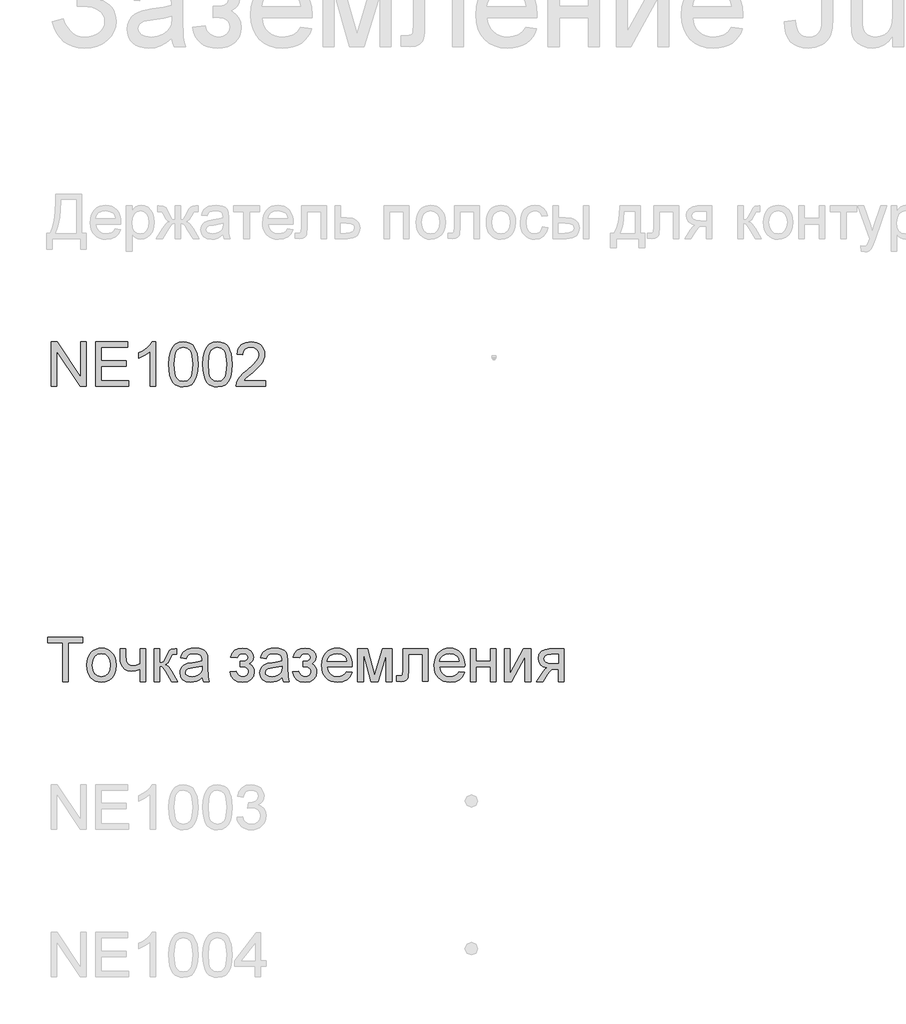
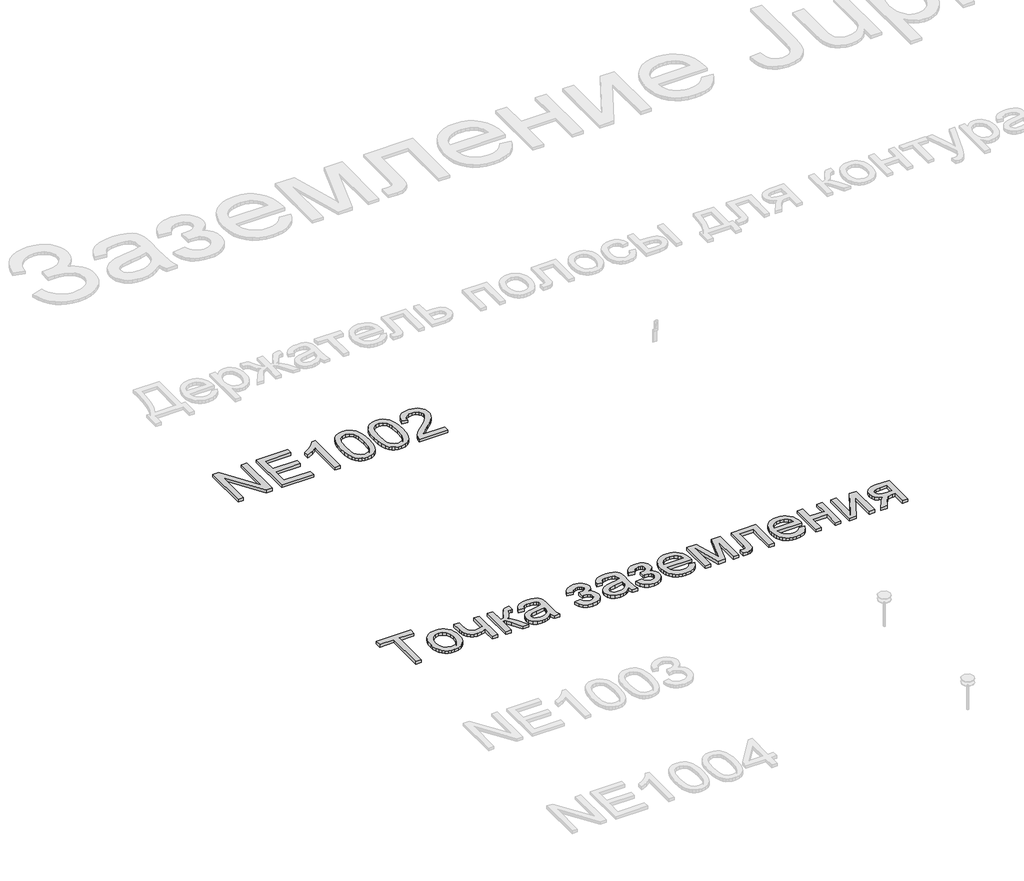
# One storey, part 76 of 124: 2 proxies.
"""IFC4 building model written with IfcOpenShell, lengths in millimetres."""

from ifc_helpers import new_model, si_unit, origin, origin_with_axes, place, context, project, spatial, polyline, outline, extrude, element, save

model = new_model("IFC4")

# Units and contexts
model_context = context("Model", 3, world=origin())
ifc_project = project(units=[si_unit("LENGTHUNIT", "METRE", prefix="MILLI")], contexts=[model_context])

# Site, building, storey
site = spatial("IfcSite", under=ifc_project)
building = spatial("IfcBuilding", under=site)
storey = spatial("IfcBuildingStorey", under=building, Name="Этаж 01", Elevation=0.0)

# Proxies
placement = place(None, origin())
element("IfcBuildingElementProxy", 1, Name="300", ObjectType="300", at=placement, inside=storey, context=model_context, shape_type="SweptSolid", body=[
    extrude(outline(polyline([(33015.2097708, -53074.498362), (33015.2097708, -52810.8005479), (32916.3230905, -52810.8005479), (32916.3230905, -52773.1294316), (33151.7675674, -52773.1294316), (33151.7675674, -52810.8005479), (33052.8808871, -52810.8005479), (33052.8808871, -53074.498362), (33015.2097708, -53074.498362)])), origin_with_axes(), (0.0, 0.0, 1.0), 20.0),
    extrude(outline(polyline([(33180.0209046, -52963.8394579), (33182.0580511, -52935.1768519), (33188.1694908, -52910.4781745), (33198.3552235, -52889.7434255), (33212.6152494, -52872.972605), (33226.9718442, -52862.2534434), (33242.8183612, -52854.5968994), (33260.1548002, -52850.002973), (33278.9811613, -52848.4716642), (33299.7641948, -52850.336366), (33318.5560669, -52855.9304716), (33335.3567778, -52865.2539809), (33350.1663274, -52878.306894), (33362.2535502, -52894.6477523), (33370.8872807, -52913.8350977), (33376.0675191, -52935.8689299), (33377.7942652, -52960.7492491), (33374.7408446, -52998.8066415), (33365.580583, -53027.7773486), (33350.5801946, -53049.4731893), (33330.006394, -53065.7059823), (33305.5698325, -53075.8319342), (33278.9811613, -53079.2072515), (33257.8946252, -53077.3494475), (33238.9280091, -53071.7760352), (33222.081313, -53062.4870149), (33207.3545368, -53049.4823863), (33195.3960727, -53032.9828788), (33186.8543127, -53013.2092216), (33181.7292566, -52990.1614146), (33180.0209046, -52963.8394579)]), holes=[polyline([(33217.6920209, -52963.7658815), (33222.0514225, -52997.8593454), (33235.1296275, -53022.1487541), (33254.8113142, -53036.6892899), (33278.9811613, -53041.5361352), (33303.0406438, -53036.6616988), (33322.6855423, -53022.0383895), (33335.7637473, -52997.427084), (33340.1231489, -52962.5886591), (33335.7361561, -52929.4884766), (33322.5751777, -52905.5301616), (33302.902688, -52890.9896258), (33278.9811613, -52886.1427805), (33254.8113142, -52890.9712317), (33235.1296275, -52905.4565852), (33222.0514225, -52929.6908117), (33217.6920209, -52963.7658815)])]), origin_with_axes(), (0.0, 0.0, 1.0), 20.0),
    extrude(outline(polyline([(33406.0476024, -52853.1805537), (33443.7187187, -52853.1805537), (33443.7187187, -52895.6341359), (33446.7721393, -52935.4389678), (33451.9684725, -52947.0088566), (33461.4506309, -52956.9968527), (33474.5472299, -52963.8946402), (33490.5868849, -52966.1939026), (33513.6346919, -52963.3428172), (33542.605399, -52954.7895608), (33542.605399, -52853.1805537), (33580.2765154, -52853.1805537), (33580.2765154, -53074.498362), (33542.605399, -53074.498362), (33542.605399, -52990.9155727), (33510.4525127, -53000.6276574), (33480.5069183, -53003.8650189), (33457.7258257, -53000.4897016), (33437.7958186, -52990.3637497), (33422.2620014, -52975.3449673), (33412.6694784, -52957.2911583), (33407.7030714, -52936.7449489), (33406.0476024, -52914.2489649), (33406.0476024, -52853.1805537)])), origin_with_axes(), (0.0, 0.0, 1.0), 20.0),
    extrude(outline(polyline([(33636.7831898, -52853.1805537), (33674.4543061, -52853.1805537), (33674.4543061, -52947.3583445), (33689.7765912, -52945.6660873), (33699.691011, -52940.5893158), (33708.4649966, -52927.3455639), (33720.3659791, -52901.1523659), (33737.5460683, -52867.1232813), (33752.7028065, -52856.0500333), (33780.2571679, -52853.1805537), (33787.467655, -52853.1805537), (33787.467655, -52891.0723992), (33777.314112, -52890.85167), (33758.9200122, -52894.8247956), (33745.970566, -52919.620042), (33730.7770396, -52946.4386395), (33709.4766721, -52959.5720267), (33721.4144428, -52964.874126), (33733.2418489, -52974.2321242), (33756.5655674, -53005.1158177), (33796.8854341, -53074.498362), (33754.0639699, -53074.498362), (33714.5534436, -53006.5873457), (33694.6878159, -52977.8557619), (33685.3987955, -52972.6410346), (33674.4543061, -52970.9027922), (33674.4543061, -53074.498362), (33636.7831898, -53074.498362), (33636.7831898, -52853.1805537)])), origin_with_axes(), (0.0, 0.0, 1.0), 20.0),
    extrude(outline(polyline([(33961.696568, -53046.2450248), (33943.6979413, -53061.6776745), (33925.1658858, -53071.7760352), (33905.6773371, -53077.3494475), (33884.809231, -53079.2072515), (33853.3277292, -53074.7374853), (33830.1051783, -53061.3281866), (33815.7853716, -53040.9659181), (33811.0121027, -53015.6372428), (33812.8147245, -53000.0206521), (33818.2225898, -52985.8388012), (33826.5643141, -52973.6986953), (33837.1685126, -52964.2073398), (33863.5456516, -52951.8465048), (33896.1399964, -52946.1811221), (33934.6572413, -52940.2214338), (33961.4758388, -52933.2316759), (33961.696568, -52924.8439664), (33959.1029999, -52908.0317592), (33951.3222957, -52897.0320875), (33933.9214773, -52888.8651072), (33909.6780538, -52886.1427805), (33887.2372521, -52887.9545993), (33871.5654791, -52893.3900558), (33860.8785072, -52903.4424313), (33853.3921086, -52919.1050072), (33815.7209923, -52914.3961177), (33822.2600947, -52893.794726), (33832.0181647, -52877.6079182), (33845.90571, -52865.228689), (33864.8332386, -52856.0500333), (33887.9822132, -52850.3662564), (33914.5340962, -52848.4716642), (33940.0007273, -52850.1455272), (33960.1882518, -52855.1671165), (33975.4093693, -52862.7178944), (33985.9767796, -52871.9793237), (33992.9849316, -52883.4296508), (33997.5282743, -52897.5471223), (33999.3676843, -52930.5093491), (33999.3676843, -52977.3775153), (34001.2806706, -53042.8237222), (34008.7854633, -53074.498362), (33971.114347, -53074.498362), (33961.696568, -53046.2450248)]), holes=[polyline([(33961.696568, -52970.9027922), (33900.9224623, -52982.4542868), (33868.5120586, -52988.5611279), (33853.833567, -52998.4939418), (33848.683219, -53012.9884924), (33851.4883192, -53024.1904992), (33859.9036199, -53033.3691549), (33873.74518, -53039.4943902), (33892.8290585, -53041.5361352), (33913.0625682, -53039.282858), (33930.9416332, -53032.5230264), (33945.4361838, -53022.5626213), (33955.5161504, -53010.707624), (33959.9859167, -52998.4939418), (33961.4758388, -52981.57137), (33961.696568, -52970.9027922)])]), origin_with_axes(), (0.0, 0.0, 1.0), 20.0),
    extrude(outline(polyline([(34220.6854926, -52975.6116817), (34220.6854926, -52937.9405654), (34250.4103578, -52936.4690374), (34265.4199432, -52928.6331509), (34270.7174439, -52921.2847081), (34272.4832775, -52912.2624021), (34270.1196357, -52901.547839), (34263.0287102, -52893.242903), (34252.2037825, -52887.9178111), (34238.6381339, -52886.1427805), (34224.9253326, -52887.908614), (34213.4382173, -52893.2061148), (34204.176788, -52902.0352827), (34197.1410449, -52914.3961177), (34154.761039, -52909.6872282), (34165.999834, -52882.9054189), (34183.0879526, -52863.7755552), (34206.025395, -52852.2976369), (34234.8121612, -52848.4716642), (34266.30286, -52853.1345685), (34290.1416132, -52867.1232813), (34305.1511986, -52887.5867173), (34310.1543938, -52911.6737909), (34308.3747646, -52924.034626), (34303.0358772, -52935.0710858), (34294.1377314, -52944.7831705), (34281.6803274, -52953.17088), (34296.2208632, -52963.6371228), (34306.5859384, -52976.6417513), (34312.7939471, -52992.2215538), (34314.8632833, -53010.4133184), (34309.6117678, -53038.1424238), (34293.8572214, -53060.114176), (34268.6665018, -53074.4339827), (34235.1064668, -53079.2072515), (34202.2821957, -53074.7926676), (34177.1650525, -53061.5489158), (34159.7550371, -53039.4759961), (34150.0521495, -53008.5739085), (34192.4321553, -53003.8650189), (34198.7781197, -53019.7943093), (34209.4283035, -53031.6768978), (34223.1503019, -53039.0713259), (34238.7117103, -53041.5361352), (34253.8684485, -53039.1724934), (34266.2292836, -53032.081568), (34274.4514462, -53021.3118225), (34277.192167, -53007.9117209), (34275.4907128, -52997.2983253), (34270.3863501, -52988.1196695), (34255.8917995, -52977.5246681), (34228.0431325, -52975.3909525), (34220.6854926, -52975.6116817)])), origin_with_axes(), (0.0, 0.0, 1.0), 20.0),
    extrude(outline(polyline([(34503.2188649, -53046.2450248), (34485.2202382, -53061.6776745), (34466.6881827, -53071.7760352), (34447.199634, -53077.3494475), (34426.3315279, -53079.2072515), (34394.8500261, -53074.7374853), (34371.6274752, -53061.3281866), (34357.3076685, -53040.9659181), (34352.5343996, -53015.6372428), (34354.3370214, -53000.0206521), (34359.7448867, -52985.8388012), (34368.086611, -52973.6986953), (34378.6908095, -52964.2073398), (34405.0679485, -52951.8465048), (34437.6622933, -52946.1811221), (34476.1795382, -52940.2214338), (34502.9981357, -52933.2316759), (34503.2188649, -52924.8439664), (34500.6252968, -52908.0317592), (34492.8445926, -52897.0320875), (34475.4437742, -52888.8651072), (34451.2003507, -52886.1427805), (34428.759549, -52887.9545993), (34413.087776, -52893.3900558), (34402.4008041, -52903.4424313), (34394.9144055, -52919.1050072), (34357.2432892, -52914.3961177), (34363.7823916, -52893.794726), (34373.5404616, -52877.6079182), (34387.4280069, -52865.228689), (34406.3555355, -52856.0500333), (34429.5045101, -52850.3662564), (34456.0563931, -52848.4716642), (34481.5230242, -52850.1455272), (34501.7105487, -52855.1671165), (34516.9316662, -52862.7178944), (34527.4990765, -52871.9793237), (34534.5072285, -52883.4296508), (34539.0505712, -52897.5471223), (34540.8899812, -52930.5093491), (34540.8899812, -52977.3775153), (34542.8029675, -53042.8237222), (34550.3077602, -53074.498362), (34512.6366439, -53074.498362), (34503.2188649, -53046.2450248)]), holes=[polyline([(34503.2188649, -52970.9027922), (34442.4447592, -52982.4542868), (34410.0343555, -52988.5611279), (34395.3558639, -52998.4939418), (34390.2055159, -53012.9884924), (34393.0106161, -53024.1904992), (34401.4259168, -53033.3691549), (34415.2674769, -53039.4943902), (34434.3513554, -53041.5361352), (34454.5848651, -53039.282858), (34472.4639301, -53032.5230264), (34486.9584807, -53022.5626213), (34497.0384473, -53010.707624), (34501.5082136, -52998.4939418), (34502.9981357, -52981.57137), (34503.2188649, -52970.9027922)])]), origin_with_axes(), (0.0, 0.0, 1.0), 20.0),
    extrude(outline(polyline([(34644.485551, -52975.6116817), (34644.485551, -52937.9405654), (34674.2104162, -52936.4690374), (34689.2200016, -52928.6331509), (34694.5175023, -52921.2847081), (34696.2833359, -52912.2624021), (34693.9196941, -52901.547839), (34686.8287686, -52893.242903), (34676.0038409, -52887.9178111), (34662.4381924, -52886.1427805), (34648.725391, -52887.908614), (34637.2382757, -52893.2061148), (34627.9768465, -52902.0352827), (34620.9411033, -52914.3961177), (34578.5610975, -52909.6872282), (34589.7998924, -52882.9054189), (34606.8880111, -52863.7755552), (34629.8254535, -52852.2976369), (34658.6122196, -52848.4716642), (34690.1029184, -52853.1345685), (34713.9416717, -52867.1232813), (34728.9512571, -52887.5867173), (34733.9544522, -52911.6737909), (34732.1748231, -52924.034626), (34726.8359356, -52935.0710858), (34717.9377899, -52944.7831705), (34705.4803858, -52953.17088), (34720.0209217, -52963.6371228), (34730.3859969, -52976.6417513), (34736.5940055, -52992.2215538), (34738.6633418, -53010.4133184), (34733.4118263, -53038.1424238), (34717.6572798, -53060.114176), (34692.4665602, -53074.4339827), (34658.9065252, -53079.2072515), (34626.0822542, -53074.7926676), (34600.965111, -53061.5489158), (34583.5550955, -53039.4759961), (34573.8522079, -53008.5739085), (34616.2322138, -53003.8650189), (34622.5781782, -53019.7943093), (34633.2283619, -53031.6768978), (34646.9503604, -53039.0713259), (34662.5117688, -53041.5361352), (34677.668507, -53039.1724934), (34690.029342, -53032.081568), (34698.2515046, -53021.3118225), (34700.9922255, -53007.9117209), (34699.2907712, -52997.2983253), (34694.1864085, -52988.1196695), (34679.6918579, -52977.5246681), (34651.8431909, -52975.3909525), (34644.485551, -52975.6116817)])), origin_with_axes(), (0.0, 0.0, 1.0), 20.0),
    extrude(outline(polyline([(34940.7041335, -53008.5739085), (34977.6394858, -53013.282798), (34964.3313547, -53041.1130709), (34943.0953665, -53061.9167978), (34914.4097679, -53074.8846381), (34878.7528055, -53079.2072515), (34855.3785033, -53077.3425497), (34834.5517838, -53071.7484441), (34816.2726472, -53062.4249348), (34800.5410934, -53049.3720217), (34787.8905512, -53032.9529884), (34778.8544497, -53013.5311184), (34773.4327888, -52991.1064115), (34771.6255685, -52965.6788678), (34773.4511829, -52939.3891007), (34778.9280261, -52916.2171336), (34788.0560981, -52896.1629663), (34800.835399, -52879.226599), (34816.525566, -52865.771315), (34834.3862369, -52856.1603979), (34854.4174115, -52850.3938476), (34876.61909, -52848.4716642), (34898.1056977, -52850.3892491), (34917.5367649, -52856.1420038), (34934.9122914, -52865.7299283), (34950.2322772, -52879.1530226), (34962.7379658, -52896.0526017), (34971.6706005, -52916.0699808), (34977.0301813, -52939.2051598), (34978.8167082, -52965.4581386), (34978.595979, -52975.6116817), (34809.2966848, -52975.6116817), (34815.8173932, -53003.8098366), (34830.9649344, -53024.5399871), (34852.8263219, -53037.2870982), (34879.4885695, -53041.5361352), (34899.5381383, -53039.5679666), (34916.4239218, -53033.6634605), (34930.1459203, -53023.4547352), (34940.7041335, -53008.5739085)]), holes=[polyline([(34809.2966848, -52937.9405654), (34941.1455919, -52937.9405654), (34936.0504263, -52918.0381495), (34926.0624301, -52903.8011162), (34904.099875, -52890.5573644), (34876.4719372, -52886.1427805), (34851.0788824, -52889.6652506), (34830.0820176, -52900.2326609), (34815.4862994, -52916.7045772), (34809.2966848, -52937.9405654)])]), origin_with_axes(), (0.0, 0.0, 1.0), 20.0),
    extrude(outline(polyline([(35016.4878245, -52853.1805537), (35081.3086321, -52853.1805537), (35131.267007, -53030.3525226), (35185.1249311, -52853.1805537), (35247.2234119, -52853.1805537), (35247.2234119, -53074.498362), (35209.5522956, -53074.498362), (35209.5522956, -52896.2963235), (35155.4000659, -53074.498362), (35105.9567258, -53074.498362), (35054.1589408, -52887.7614613), (35054.1589408, -53074.498362), (35016.4878245, -53074.498362), (35016.4878245, -52853.1805537)])), origin_with_axes(), (0.0, 0.0, 1.0), 20.0),
    extrude(outline(polyline([(35322.5656445, -52853.1805537), (35492.0856679, -52853.1805537), (35492.0856679, -53074.2776328), (35454.4145516, -53074.2776328), (35454.4145516, -52890.85167), (35360.2367608, -52890.85167), (35360.2367608, -52996.4338026), (35357.698375, -53045.1413788), (35352.9435003, -53056.1686416), (35343.7556474, -53065.7059823), (35329.8129198, -53072.3002671), (35310.7934207, -53074.498362), (35280.1856387, -53072.5853756), (35280.1856387, -53036.8272457), (35297.034634, -53036.8272457), (35314.0675704, -53034.5095891), (35320.8733873, -53027.1519492), (35322.5656445, -52994.3000871), (35322.5656445, -52853.1805537)])), origin_with_axes(), (0.0, 0.0, 1.0), 20.0),
    extrude(outline(polyline([(35703.5442387, -53008.5739085), (35740.479591, -53013.282798), (35727.1714599, -53041.1130709), (35705.9354717, -53061.9167978), (35677.2498731, -53074.8846381), (35641.5929107, -53079.2072515), (35618.2186085, -53077.3425497), (35597.391889, -53071.7484441), (35579.1127524, -53062.4249348), (35563.3811986, -53049.3720217), (35550.7306564, -53032.9529884), (35541.6945549, -53013.5311184), (35536.272894, -52991.1064115), (35534.4656737, -52965.6788678), (35536.2912881, -52939.3891007), (35541.7681313, -52916.2171336), (35550.8962033, -52896.1629663), (35563.6755041, -52879.226599), (35579.3656712, -52865.771315), (35597.2263421, -52856.1603979), (35617.2575167, -52850.3938476), (35639.4591952, -52848.4716642), (35660.9458029, -52850.3892491), (35680.3768701, -52856.1420038), (35697.7523966, -52865.7299283), (35713.0723824, -52879.1530226), (35725.578071, -52896.0526017), (35734.5107057, -52916.0699808), (35739.8702865, -52939.2051598), (35741.6568134, -52965.4581386), (35741.4360842, -52975.6116817), (35572.13679, -52975.6116817), (35578.6574984, -53003.8098366), (35593.8050396, -53024.5399871), (35615.6664271, -53037.2870982), (35642.3286747, -53041.5361352), (35662.3782435, -53039.5679666), (35679.264027, -53033.6634605), (35692.9860255, -53023.4547352), (35703.5442387, -53008.5739085)]), holes=[polyline([(35572.13679, -52937.9405654), (35703.9856971, -52937.9405654), (35698.8905315, -52918.0381495), (35688.9025353, -52903.8011162), (35666.9399802, -52890.5573644), (35639.3120424, -52886.1427805), (35613.9189876, -52889.6652506), (35592.9221228, -52900.2326609), (35578.3264046, -52916.7045772), (35572.13679, -52937.9405654)])]), origin_with_axes(), (0.0, 0.0, 1.0), 20.0),
    extrude(outline(polyline([(35779.3279297, -52853.1805537), (35816.999046, -52853.1805537), (35816.999046, -52937.9405654), (35915.8857263, -52937.9405654), (35915.8857263, -52853.1805537), (35953.5568426, -52853.1805537), (35953.5568426, -53074.498362), (35915.8857263, -53074.498362), (35915.8857263, -52975.6116817), (35816.999046, -52975.6116817), (35816.999046, -53074.498362), (35779.3279297, -53074.498362), (35779.3279297, -52853.1805537)])), origin_with_axes(), (0.0, 0.0, 1.0), 20.0),
    extrude(outline(polyline([(36010.0635171, -52853.1805537), (36047.7346334, -52853.1805537), (36047.7346334, -53021.9648131), (36140.2937434, -52853.1805537), (36189.0013196, -52853.1805537), (36189.0013196, -53074.498362), (36151.3302032, -53074.498362), (36151.3302032, -52906.7441722), (36059.3597045, -53074.498362), (36010.0635171, -53074.498362), (36010.0635171, -52853.1805537)])), origin_with_axes(), (0.0, 0.0, 1.0), 20.0),
    extrude(outline(polyline([(36415.0280174, -52853.1805537), (36415.0280174, -53074.498362), (36377.3569011, -53074.498362), (36377.3569011, -52989.7383503), (36356.8290858, -52989.7383503), (36328.8700541, -52994.5208163), (36317.7048356, -53004.9502708), (36302.6032797, -53026.6737026), (36272.5841089, -53074.498362), (36229.0268806, -53074.498362), (36266.8451497, -53014.018562), (36283.5469923, -52992.3135243), (36298.9244597, -52982.675016), (36273.17272, -52974.7839472), (36255.0729259, -52959.7927559), (36244.3675598, -52939.8535518), (36240.7991045, -52917.1184445), (36245.6735409, -52891.3299166), (36260.2968502, -52870.9124659), (36284.1539976, -52857.6135317), (36316.7299483, -52853.1805537), (36415.0280174, -52853.1805537)]), holes=[polyline([(36377.3569011, -52890.85167), (36327.6928317, -52890.85167), (36302.0422596, -52893.0313708), (36287.4833297, -52899.5704733), (36280.723498, -52909.0342376), (36278.4702208, -52919.987924), (36281.7903558, -52934.3445189), (36291.7507608, -52944.3049239), (36310.1540576, -52950.1266565), (36338.802868, -52952.067234), (36377.3569011, -52952.067234), (36377.3569011, -52890.85167)])]), origin_with_axes(), (0.0, 0.0, 1.0), 20.0),
])
element("IfcBuildingElementProxy", 2, Name="300", ObjectType="300", at=placement, inside=storey, context=model_context, shape_type="SweptSolid", body=[
    extrude(outline(polyline([(32939.8675381, -51074.498362), (32939.8675381, -50773.1294316), (32980.1874048, -50773.1294316), (33137.6408988, -51011.8848464), (33137.6408988, -50773.1294316), (33175.3120151, -50773.1294316), (33175.3120151, -51074.498362), (33134.9921484, -51074.498362), (32977.5386545, -50835.6693707), (32977.5386545, -51074.498362), (32939.8675381, -51074.498362)])), origin_with_axes(), (0.0, 0.0, 1.0), 20.0),
    extrude(outline(polyline([(33241.2364686, -51074.498362), (33241.2364686, -50773.1294316), (33457.8453874, -50773.1294316), (33457.8453874, -50810.8005479), (33278.9075849, -50810.8005479), (33278.9075849, -50900.2694491), (33448.4276083, -50900.2694491), (33448.4276083, -50937.9405654), (33278.9075849, -50937.9405654), (33278.9075849, -51036.8272457), (33462.5542769, -51036.8272457), (33462.5542769, -51074.498362), (33241.2364686, -51074.498362)])), origin_with_axes(), (0.0, 0.0, 1.0), 20.0),
    extrude(outline(polyline([(33646.2009689, -51074.498362), (33608.5298526, -51074.498362), (33608.5298526, -50839.6424963), (33572.8452991, -50865.0631421), (33533.18762, -50884.0826413), (33533.18762, -50848.4716642), (33562.7745294, -50832.3768269), (33588.4067074, -50813.228569), (33608.612626, -50792.8663006), (33621.9207572, -50773.1294316), (33646.2009689, -50773.1294316), (33646.2009689, -51074.498362)])), origin_with_axes(), (0.0, 0.0, 1.0), 20.0),
    extrude(outline(polyline([(33735.6698701, -50926.2419179), (33738.4381821, -50878.0033913), (33746.7431182, -50839.5321317), (33760.5019048, -50810.2395278), (33779.6317685, -50789.5369685), (33804.2706652, -50777.2313158), (33834.5565504, -50773.1294316), (33857.7699043, -50775.5574527), (33878.555237, -50782.8415162), (33895.9376613, -50794.6965135), (33908.9422898, -50810.8373361), (33918.7647391, -50831.1260281), (33926.6006256, -50855.4246339), (33931.7325794, -50886.2807362), (33933.4432307, -50926.2419179), (33930.7025099, -50974.2045331), (33922.4803473, -51012.5838222), (33908.8043341, -51041.9040172), (33889.7020615, -51062.68935), (33865.0079826, -51075.0777761), (33834.5565504, -51079.2072515), (33813.8080059, -51077.4138268), (33795.4139061, -51072.0335526), (33779.3742511, -51063.066429), (33765.6890409, -51050.5124559), (33752.5556537, -51027.8187353), (33743.1746628, -50999.5424055), (33737.5460683, -50965.6834664), (33735.6698701, -50926.2419179)]), holes=[polyline([(33773.3409864, -50926.1683415), (33777.7555704, -50985.4249339), (33783.2738003, -51005.6929326), (33790.9993222, -51019.7207329), (33810.7177971, -51036.0822847), (33834.5565504, -51041.5361352), (33858.3953037, -51036.0638906), (33878.1137786, -51019.6471565), (33885.8393005, -51005.5963636), (33891.3575305, -50985.3329634), (33895.7721144, -50926.1683415), (33891.5046833, -50868.2453214), (33886.1703943, -50848.0440013), (33878.7023898, -50833.682808), (33859.0207031, -50816.5211129), (33834.115092, -50810.8005479), (33810.5338561, -50815.8405312), (33791.5879334, -50830.9604812), (33783.6048941, -50846.595466), (33777.9027232, -50867.6751043), (33773.3409864, -50926.1683415)])]), origin_with_axes(), (0.0, 0.0, 1.0), 20.0),
    extrude(outline(polyline([(33966.4054575, -50926.2419179), (33969.1737695, -50878.0033913), (33977.4787055, -50839.5321317), (33991.2374922, -50810.2395278), (34010.3673559, -50789.5369685), (34035.0062525, -50777.2313158), (34065.2921378, -50773.1294316), (34088.5054917, -50775.5574527), (34109.2908244, -50782.8415162), (34126.6732487, -50794.6965135), (34139.6778772, -50810.8373361), (34149.5003265, -50831.1260281), (34157.336213, -50855.4246339), (34162.4681668, -50886.2807362), (34164.1788181, -50926.2419179), (34161.4380972, -50974.2045331), (34153.2159346, -51012.5838222), (34139.5399215, -51041.9040172), (34120.4376489, -51062.68935), (34095.7435699, -51075.0777761), (34065.2921378, -51079.2072515), (34044.5435933, -51077.4138268), (34026.1494935, -51072.0335526), (34010.1098385, -51063.066429), (33996.4246283, -51050.5124559), (33983.2912411, -51027.8187353), (33973.9102502, -50999.5424055), (33968.2816557, -50965.6834664), (33966.4054575, -50926.2419179)]), holes=[polyline([(34004.0765738, -50926.1683415), (34008.4911577, -50985.4249339), (34014.0093877, -51005.6929326), (34021.7349096, -51019.7207329), (34041.4533845, -51036.0822847), (34065.2921378, -51041.5361352), (34089.1308911, -51036.0638906), (34108.849366, -51019.6471565), (34116.5748879, -51005.5963636), (34122.0931178, -50985.3329634), (34126.5077018, -50926.1683415), (34122.2402706, -50868.2453214), (34116.9059817, -50848.0440013), (34109.4379772, -50833.682808), (34089.7562905, -50816.5211129), (34064.8506794, -50810.8005479), (34041.2694435, -50815.8405312), (34022.3235208, -50830.9604812), (34014.3404815, -50846.595466), (34008.6383105, -50867.6751043), (34004.0765738, -50926.1683415)])]), origin_with_axes(), (0.0, 0.0, 1.0), 20.0),
    extrude(outline(polyline([(34390.2055159, -51036.8272457), (34390.2055159, -51074.498362), (34192.4321553, -51074.498362), (34196.4788573, -51048.5258931), (34205.7678777, -51028.2280041), (34219.3611174, -51008.5371203), (34239.02441, -50987.9265315), (34266.5235892, -50964.8695274), (34307.1745496, -50928.7619096), (34331.5651259, -50902.1088591), (34343.760414, -50880.4773977), (34347.8255101, -50859.4345476), (34343.9903403, -50840.5713983), (34332.4848309, -50824.8904283), (34314.798904, -50814.323018), (34292.4224816, -50810.8005479), (34268.9240192, -50814.2402445), (34250.6678752, -50824.5593345), (34238.8864543, -50840.9484774), (34234.8121612, -50862.5983328), (34197.1410449, -50857.8894432), (34206.2737154, -50821.4507316), (34214.820074, -50806.9147943), (34226.0197815, -50794.8344693), (34239.6153205, -50785.3385153), (34255.3491736, -50778.555691), (34293.231822, -50773.1294316), (34313.4216458, -50774.6377477), (34331.390382, -50779.1626963), (34347.1380306, -50786.7042772), (34360.6645917, -50797.2624904), (34371.5286069, -50810.0555868), (34379.2886177, -50824.3018171), (34383.9446242, -50840.0011812), (34385.4966264, -50857.1536793), (34383.8227633, -50875.1707), (34378.8011741, -50892.875021), (34369.8892328, -50910.8828446), (34356.5443134, -50929.8103733), (34335.271537, -50952.4075249), (34302.5760247, -50981.4242172), (34259.2395257, -51017.6605937), (34242.2433775, -51036.8272457), (34390.2055159, -51036.8272457)])), origin_with_axes(), (0.0, 0.0, 1.0), 20.0),
])

save(model, "model.ifc")
